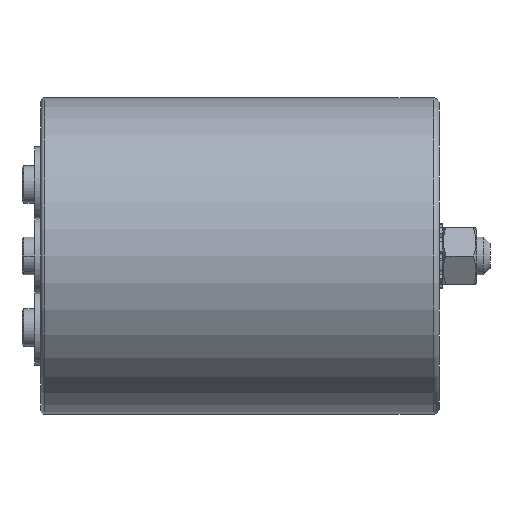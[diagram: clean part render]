
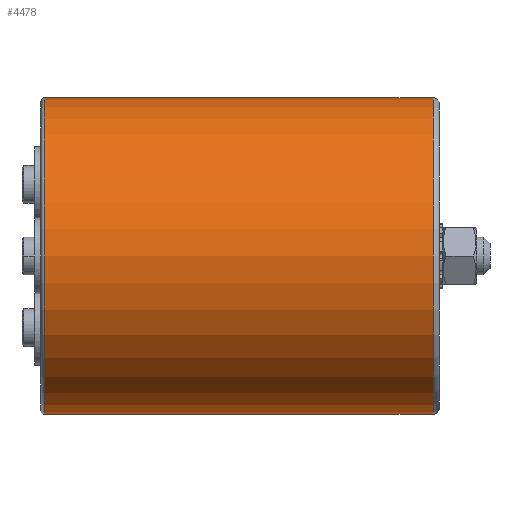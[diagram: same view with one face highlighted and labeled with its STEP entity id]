
A CAD part, left-side view. The second image highlights one B-rep face of the part: STEP entity #4478.
In plain terms, the highlighted cylindrical face has radius 50 mm (diameter 100 mm), a partial arc.
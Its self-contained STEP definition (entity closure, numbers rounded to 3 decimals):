
#131 = AXIS2_PLACEMENT_3D ( 'NONE', #4555, #2751, #2329 ) ;
#412 = CARTESIAN_POINT ( 'NONE',  ( 0., 125., -50. ) ) ;
#424 = ORIENTED_EDGE ( 'NONE', *, *, #2334, .T. ) ;
#504 = CARTESIAN_POINT ( 'NONE',  ( 0., 125., 50. ) ) ;
#610 = DIRECTION ( 'NONE',  ( 0., 0., -1. ) ) ;
#851 = CARTESIAN_POINT ( 'NONE',  ( 0., 2., -50. ) ) ;
#882 = EDGE_CURVE ( 'NONE', #2509, #1785, #3487, .T. ) ;
#1138 = AXIS2_PLACEMENT_3D ( 'NONE', #2970, #4718, #3655 ) ;
#1143 = DIRECTION ( 'NONE',  ( 0., -1., 0. ) ) ;
#1662 = CYLINDRICAL_SURFACE ( 'NONE', #131, 50. ) ;
#1672 = EDGE_CURVE ( 'NONE', #2494, #1785, #1727, .T. ) ;
#1674 = CIRCLE ( 'NONE', #1138, 50. ) ;
#1727 = LINE ( 'NONE', #4403, #1965 ) ;
#1785 = VERTEX_POINT ( 'NONE', #4426 ) ;
#1858 = ORIENTED_EDGE ( 'NONE', *, *, #4394, .T. ) ;
#1965 = VECTOR ( 'NONE', #2522, 1000. ) ;
#2171 = ORIENTED_EDGE ( 'NONE', *, *, #882, .T. ) ;
#2329 = DIRECTION ( 'NONE',  ( 0., 0., -1. ) ) ;
#2334 = EDGE_CURVE ( 'NONE', #2494, #4730, #1674, .T. ) ;
#2494 = VERTEX_POINT ( 'NONE', #504 ) ;
#2509 = VERTEX_POINT ( 'NONE', #851 ) ;
#2522 = DIRECTION ( 'NONE',  ( 0., -1., 0. ) ) ;
#2751 = DIRECTION ( 'NONE',  ( 0., -1., 0. ) ) ;
#2970 = CARTESIAN_POINT ( 'NONE',  ( 0., 125., 0. ) ) ;
#2997 = CARTESIAN_POINT ( 'NONE',  ( 0., 0., -50. ) ) ;
#3095 = EDGE_LOOP ( 'NONE', ( #3432, #424, #1858, #2171 ) ) ;
#3296 = LINE ( 'NONE', #2997, #3505 ) ;
#3432 = ORIENTED_EDGE ( 'NONE', *, *, #1672, .F. ) ;
#3487 = CIRCLE ( 'NONE', #4263, 50. ) ;
#3505 = VECTOR ( 'NONE', #1143, 1000. ) ;
#3655 = DIRECTION ( 'NONE',  ( 0., 0., 1. ) ) ;
#4165 = FACE_OUTER_BOUND ( 'NONE', #3095, .T. ) ;
#4263 = AXIS2_PLACEMENT_3D ( 'NONE', #4655, #4634, #610 ) ;
#4394 = EDGE_CURVE ( 'NONE', #4730, #2509, #3296, .T. ) ;
#4403 = CARTESIAN_POINT ( 'NONE',  ( 0., 0., 50. ) ) ;
#4426 = CARTESIAN_POINT ( 'NONE',  ( 0., 2., 50. ) ) ;
#4478 = ADVANCED_FACE ( 'NONE', ( #4165 ), #1662, .T. ) ;
#4555 = CARTESIAN_POINT ( 'NONE',  ( 0., 0., 0. ) ) ;
#4634 = DIRECTION ( 'NONE',  ( 0., 1., 0. ) ) ;
#4655 = CARTESIAN_POINT ( 'NONE',  ( 0., 2., 0. ) ) ;
#4718 = DIRECTION ( 'NONE',  ( 0., -1., 0. ) ) ;
#4730 = VERTEX_POINT ( 'NONE', #412 ) ;
